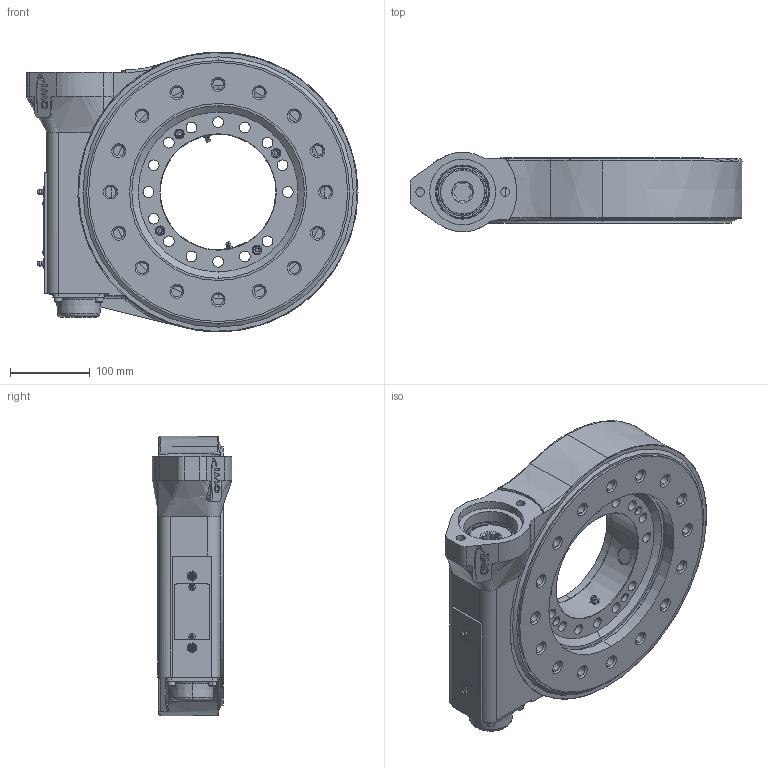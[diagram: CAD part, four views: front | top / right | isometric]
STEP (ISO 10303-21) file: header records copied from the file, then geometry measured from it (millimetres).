
FILE_DESCRIPTION (( 'STEP AP214' ), '1' );
FILE_NAME ('WD-LA 0223-3-06370C_without motor.STEP', '2011-09-07T13:38:38', ( '' ), ( '' ), 'SwSTEP 2.0', 'SolidWorks 2010', '' );
FILE_SCHEMA (( 'AUTOMOTIVE_DESIGN' ));
Length unit declared in the file: millimetre
Products named in the file (1): WD-LA 0223-3-06370C_without motor
Bounding box: 416.48 x 99.97 x 350.96 mm (x, y, z)
Surface area: 478457.8 mm2 (no closed solid volume)
Topology: 0 solids, 33 shells, 501 faces, 1422 edges, 942 vertices
Faces by surface type: cylinder 197, plane 150, cone 83, torus 51, bspline 20
Entity records: 23148 total; most frequent: CARTESIAN_POINT 4396, DIRECTION 2921, ORIENTED_EDGE 2477, EDGE_CURVE 1415, AXIS2_PLACEMENT_3D 1151, VERTEX_POINT 942, CIRCLE 669, EDGE_LOOP 644
